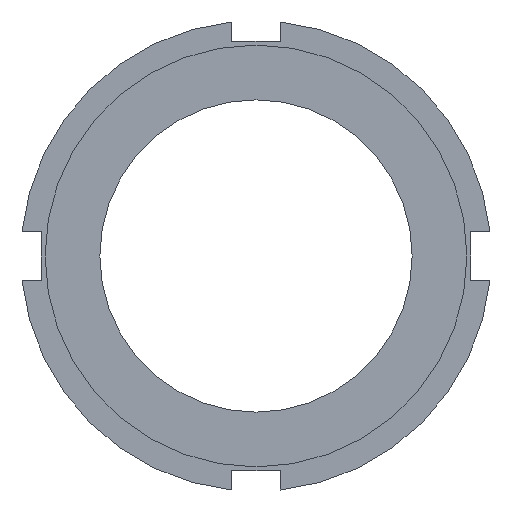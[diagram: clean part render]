
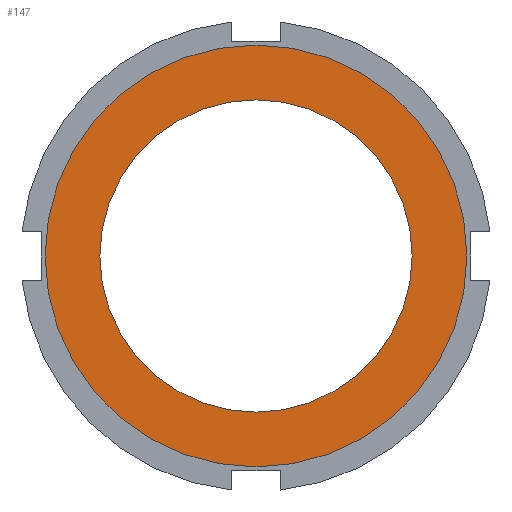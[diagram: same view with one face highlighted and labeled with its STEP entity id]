
A CAD part, left-side view. The second image highlights one B-rep face of the part: STEP entity #147.
In plain terms, the highlighted planar face has unit normal (-1, 0, 0).
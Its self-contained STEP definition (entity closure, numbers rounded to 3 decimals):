
#10 = EDGE_CURVE ( 'NONE', #92, #64, #261, .T. ) ;
#26 = EDGE_CURVE ( 'NONE', #169, #43, #351, .T. ) ;
#43 = VERTEX_POINT ( 'NONE', #492 ) ;
#63 = ORIENTED_EDGE ( 'NONE', *, *, #790, .F. ) ;
#64 = VERTEX_POINT ( 'NONE', #569 ) ;
#66 = EDGE_CURVE ( 'NONE', #43, #169, #577, .T. ) ;
#91 = ORIENTED_EDGE ( 'NONE', *, *, #66, .T. ) ;
#92 = VERTEX_POINT ( 'NONE', #383 ) ;
#125 = EDGE_LOOP ( 'NONE', ( #63, #233 ) ) ;
#147 = ADVANCED_FACE ( 'NONE', ( #327, #328 ), #329, .F. ) ;
#148 = EDGE_LOOP ( 'NONE', ( #91, #792 ) ) ;
#169 = VERTEX_POINT ( 'NONE', #421 ) ;
#233 = ORIENTED_EDGE ( 'NONE', *, *, #10, .F. ) ;
#261 = CIRCLE ( 'NONE', #262, 19.25 ) ;
#262 = AXIS2_PLACEMENT_3D ( 'NONE', #263, #264, #265 ) ;
#263 = CARTESIAN_POINT ( 'NONE',  ( 0., 0., 0. ) ) ;
#264 = DIRECTION ( 'NONE',  ( -1., 0., 0. ) ) ;
#265 = DIRECTION ( 'NONE',  ( 0., 0., 1. ) ) ;
#327 = FACE_BOUND ( 'NONE', #125, .T. ) ;
#328 = FACE_OUTER_BOUND ( 'NONE', #148, .T. ) ;
#329 = PLANE ( 'NONE',  #330 ) ;
#330 = AXIS2_PLACEMENT_3D ( 'NONE', #331, #332, #333 ) ;
#331 = CARTESIAN_POINT ( 'NONE',  ( 0., 19.25, 0. ) ) ;
#332 = DIRECTION ( 'NONE',  ( 1., 0., 0. ) ) ;
#333 = DIRECTION ( 'NONE',  ( 0., 0., -1. ) ) ;
#351 = CIRCLE ( 'NONE', #352, 26. ) ;
#352 = AXIS2_PLACEMENT_3D ( 'NONE', #353, #354, #355 ) ;
#353 = CARTESIAN_POINT ( 'NONE',  ( 0., 0., 0. ) ) ;
#354 = DIRECTION ( 'NONE',  ( -1., 0., 0. ) ) ;
#355 = DIRECTION ( 'NONE',  ( 0., 0., 1. ) ) ;
#383 = CARTESIAN_POINT ( 'NONE',  ( 0., 0., -19.25 ) ) ;
#388 = CIRCLE ( 'NONE', #389, 19.25 ) ;
#389 = AXIS2_PLACEMENT_3D ( 'NONE', #390, #391, #392 ) ;
#390 = CARTESIAN_POINT ( 'NONE',  ( 0., 0., 0. ) ) ;
#391 = DIRECTION ( 'NONE',  ( -1., 0., 0. ) ) ;
#392 = DIRECTION ( 'NONE',  ( 0., 0., 1. ) ) ;
#421 = CARTESIAN_POINT ( 'NONE',  ( 0., 0., -26. ) ) ;
#492 = CARTESIAN_POINT ( 'NONE',  ( 0., 0., 26. ) ) ;
#569 = CARTESIAN_POINT ( 'NONE',  ( 0., 0., 19.25 ) ) ;
#577 = CIRCLE ( 'NONE', #578, 26. ) ;
#578 = AXIS2_PLACEMENT_3D ( 'NONE', #579, #580, #581 ) ;
#579 = CARTESIAN_POINT ( 'NONE',  ( 0., 0., 0. ) ) ;
#580 = DIRECTION ( 'NONE',  ( -1., 0., 0. ) ) ;
#581 = DIRECTION ( 'NONE',  ( 0., 0., 1. ) ) ;
#790 = EDGE_CURVE ( 'NONE', #64, #92, #388, .T. ) ;
#792 = ORIENTED_EDGE ( 'NONE', *, *, #26, .T. ) ;
